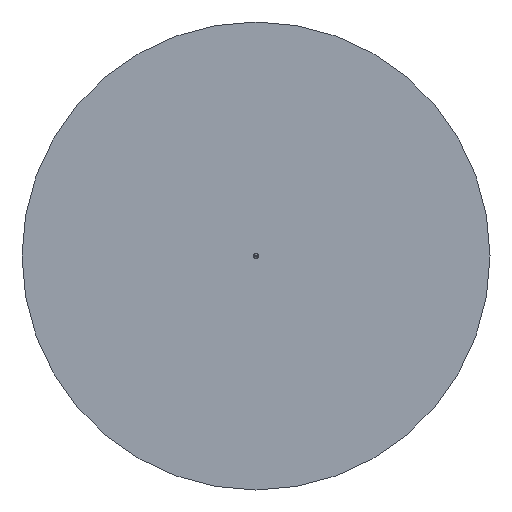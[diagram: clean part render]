
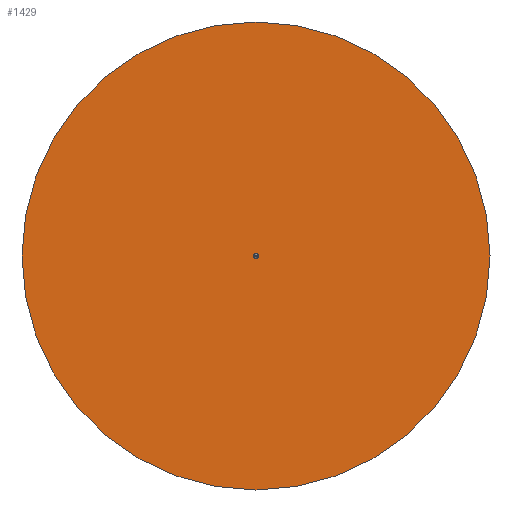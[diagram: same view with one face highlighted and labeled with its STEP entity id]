
A CAD part, front view. The second image highlights one B-rep face of the part: STEP entity #1429.
In plain terms, the highlighted planar face has unit normal (0, -1, 0).
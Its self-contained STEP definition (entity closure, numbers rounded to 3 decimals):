
#143=CARTESIAN_POINT('',(70.,-21.5,0.));
#144=VERTEX_POINT('',#143);
#160=CARTESIAN_POINT('',(-70.,-21.5,0.));
#161=VERTEX_POINT('',#160);
#168=CARTESIAN_POINT('',(0.0,-21.5,0.));
#169=DIRECTION('',(0.0,-1.0,0.0));
#170=DIRECTION('',(1.0,0.0,0.0));
#171=AXIS2_PLACEMENT_3D('',#168,#169,#170);
#172=CIRCLE('',#171,70.);
#173=EDGE_CURVE('',#144,#161,#172,.T.);
#722=CARTESIAN_POINT('',(0.7,-21.5,0.));
#723=VERTEX_POINT('',#722);
#739=CARTESIAN_POINT('',(-0.7,-21.5,0.));
#740=VERTEX_POINT('',#739);
#747=CARTESIAN_POINT('',(0.0,-21.5,0.));
#748=DIRECTION('',(0.0,-1.0,0.0));
#749=DIRECTION('',(1.0,0.0,0.0));
#750=AXIS2_PLACEMENT_3D('',#747,#748,#749);
#751=CIRCLE('',#750,0.7);
#752=EDGE_CURVE('',#740,#723,#751,.T.);
#971=CARTESIAN_POINT('',(0.0,-21.5,0.));
#972=DIRECTION('',(0.0,-1.0,0.0));
#973=DIRECTION('',(1.0,0.0,0.0));
#974=AXIS2_PLACEMENT_3D('',#971,#972,#973);
#975=CIRCLE('',#974,0.7);
#976=EDGE_CURVE('',#723,#740,#975,.T.);
#1404=CARTESIAN_POINT('',(0.0,-21.5,0.));
#1405=DIRECTION('',(0.0,-1.0,0.0));
#1406=DIRECTION('',(1.0,0.0,0.0));
#1407=AXIS2_PLACEMENT_3D('',#1404,#1405,#1406);
#1408=CIRCLE('',#1407,70.);
#1409=EDGE_CURVE('',#161,#144,#1408,.T.);
#1416=CARTESIAN_POINT('',(35.35,-21.5,0.));
#1417=DIRECTION('',(0.0,-1.0,0.0));
#1418=DIRECTION('',(0.0,0.0,-1.0));
#1419=AXIS2_PLACEMENT_3D('',#1416,#1417,#1418);
#1420=PLANE('',#1419);
#1421=ORIENTED_EDGE('',*,*,#173,.T.);
#1422=ORIENTED_EDGE('',*,*,#1409,.T.);
#1423=EDGE_LOOP('',(#1421,#1422));
#1424=FACE_OUTER_BOUND('',#1423,.T.);
#1425=ORIENTED_EDGE('',*,*,#976,.F.);
#1426=ORIENTED_EDGE('',*,*,#752,.F.);
#1427=EDGE_LOOP('',(#1425,#1426));
#1428=FACE_BOUND('',#1427,.T.);
#1429=ADVANCED_FACE('',(#1424,#1428),#1420,.T.);
